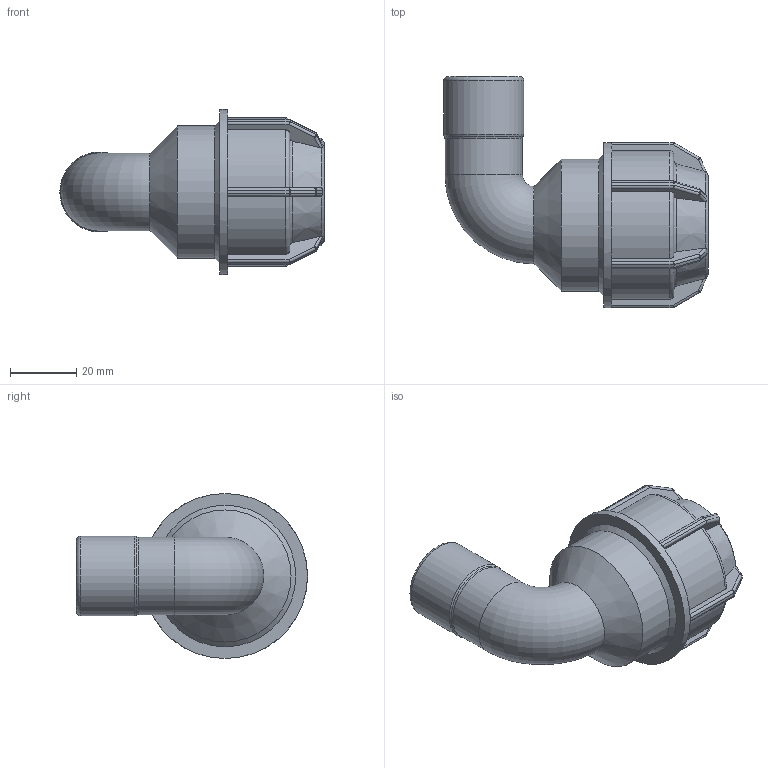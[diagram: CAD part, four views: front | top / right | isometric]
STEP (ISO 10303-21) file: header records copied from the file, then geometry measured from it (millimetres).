
FILE_DESCRIPTION(/* description */ ('L.14 90° ELBOW FEMALE ADAPTOR (SILVER) 25-1/2"'),/* implementation_level */ '2;1');
FILE_NAME(/* name */ 'C:\Dropbox\KIMPROJECTS-Inventor\99-16-3568-Processing\Silver+MF ISRAEL\141500\141500025005.ipt.stp',/* time_stamp */ '2018-04-09T13:04:48+03:00',/* author */ ('KIM'),/* organization */ (''),/* preprocessor_version */ 'ST-DEVELOPER v15.6',/* originating_system */ 'Autodesk Inventor 2015',/* authorisation */ '');
FILE_SCHEMA (('AUTOMOTIVE_DESIGN { 1 0 10303 214 3 1 1 }'));
Length unit declared in the file: millimetre
Products named in the file (1): 141500025005
Bounding box: 80.11 x 70 x 50 mm (x, y, z)
Volume: 56920.6 mm3; surface area: 20983.3 mm2
Topology: 1 solids, 1 shells, 213 faces, 500 edges, 287 vertices
Faces by surface type: plane 98, cylinder 63, sphere 24, torus 19, cone 9
Full cylindrical faces by diameter (mm): 14.905 x2, 18.631 x1, 23.494 x1, 24.22 x1, 25 x2, 40 x1, 50 x1
Entity records: 6098 total; most frequent: CARTESIAN_POINT 1536, DIRECTION 962, ORIENTED_EDGE 922, EDGE_CURVE 461, AXIS2_PLACEMENT_3D 391, VERTEX_POINT 275, EDGE_LOOP 236, FACE_OUTER_BOUND 211
